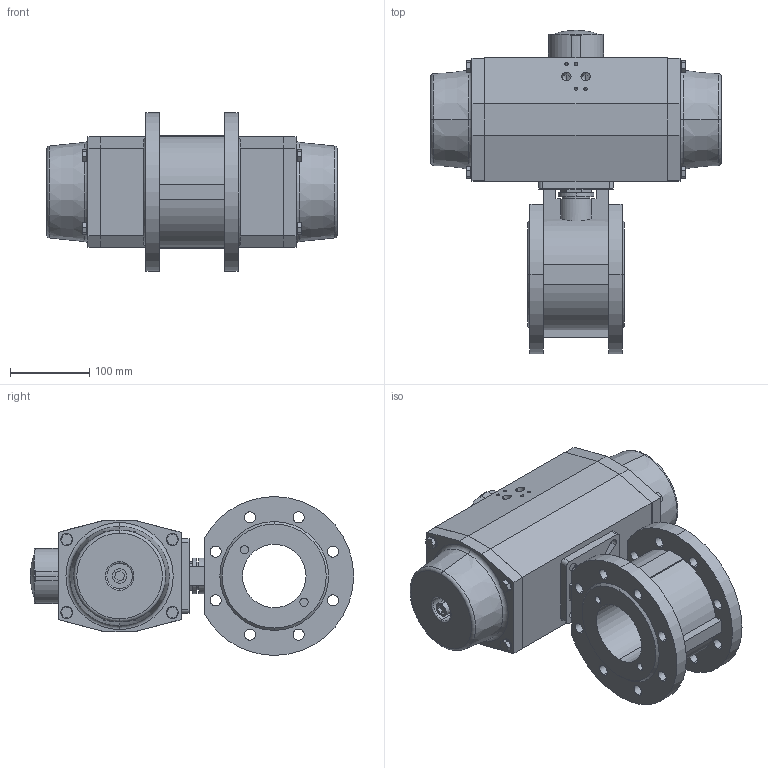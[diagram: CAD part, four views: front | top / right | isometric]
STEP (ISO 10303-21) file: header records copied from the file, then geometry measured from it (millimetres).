
FILE_DESCRIPTION (( 'STEP AP214' ), '1' );
FILE_NAME ('S15D DN80 AP5.STEP', '2012-04-24T08:14:55', ( 'Jan' ), ( '' ), 'SwSTEP 2.0', 'SolidWorks 2011', '' );
FILE_SCHEMA (( 'AUTOMOTIVE_DESIGN' ));
Length unit declared in the file: millimetre
Products named in the file (3): AP5_Default<As Machined>; S15D KK DN80 PN16; S15D DN80 AP5
Assembly tree (2 placements, depth 2):
  S15D DN80 AP5
    S15D KK DN80 PN16
    AP5_Default<As Machined>
Bounding box: 366 x 407.2 x 200 mm (x, y, z)
Volume: 8493590.8 mm3; surface area: 477846.1 mm2
Topology: 11 solids, 11 shells, 470 faces, 1172 edges, 730 vertices
Faces by surface type: plane 260, cylinder 150, cone 46, torus 12, sphere 2
Entity records: 15375 total; most frequent: DIRECTION 2478, CARTESIAN_POINT 2422, ORIENTED_EDGE 2268, EDGE_CURVE 1134, AXIS2_PLACEMENT_3D 872, LINE 734, VECTOR 734, VERTEX_POINT 730
